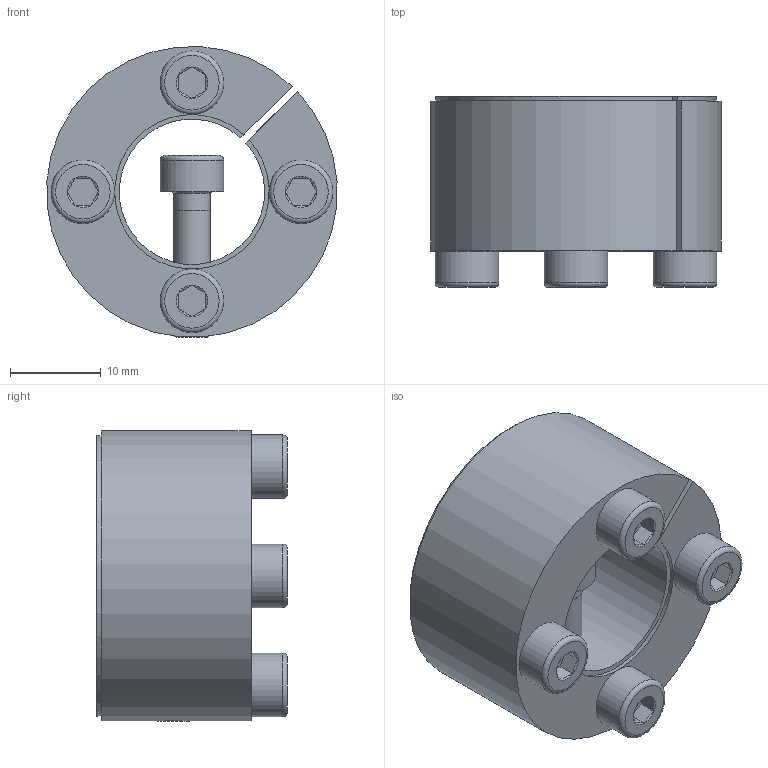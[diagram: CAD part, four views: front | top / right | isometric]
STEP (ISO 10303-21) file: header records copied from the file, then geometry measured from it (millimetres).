
FILE_DESCRIPTION( ( 'Unknown' ), '1' );
FILE_NAME( 'C:/Dokumente und Einstellungen/Sven/Desktop/homepage/cad - homepage/KBS61/KBS 61 - 16 x 32.stp', 'Unknown', ( 'Unknown' ), ( 'Unknown' ), 'XStep 1.0', 'Unknown', ' ' );
FILE_SCHEMA( ( 'automotive_design' ) );
Length unit declared in the file: millimetre
Products named in the file (3): Assem1; KBS 61 - 16 x 32; ISO EN DIN 4762 M4x16
Bounding box: 31.91 x 21 x 31.96 mm (x, y, z)
Volume: 20191.9 mm3; surface area: 11450.3 mm2
Topology: 7 solids, 7 shells, 153 faces, 295 edges, 176 vertices
Faces by surface type: plane 72, cone 39, cylinder 32, torus 10
Full cylindrical faces by diameter (mm): 3.5 x5, 4 x18, 7 x5
Entity records: 1178 total; most frequent: CARTESIAN_POINT 209, DIRECTION 180, ORIENTED_EDGE 134, AXIS2_PLACEMENT_3D 78, EDGE_CURVE 67, EDGE_LOOP 62, FACE_OUTER_BOUND 49, VERTEX_POINT 47
